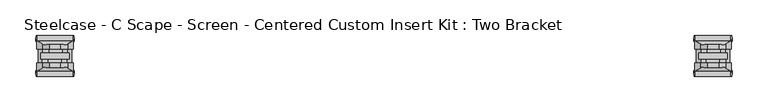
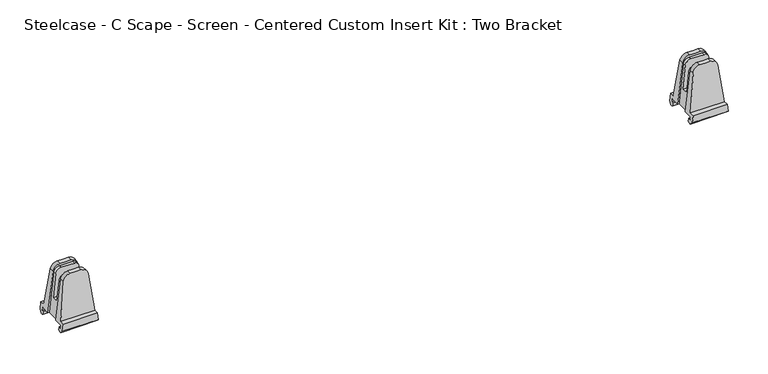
"""IFC4 building model written with IfcOpenShell, lengths in millimetres: furniture geometry, Steelcase - C Scape - Screen - Centered Custom Insert Kit : Two Bracket."""

from ifc_helpers import new_model, si_unit, frame, origin, place, context, project, spatial, circle_curve, ellipse_curve, source, transform, mapped, element, save
from ifc_brep_helpers import plane_surface, cylinder_surface, advanced_brep


def steelcase_c_scape_screen_centered_custom_insert_kit_two_16837869(model_context):
    return source(origin(), model_context, "Body", "AdvancedBrep", [
        advanced_brep(
        [(983.5509563, -3.1752569, 793.5976353), (991.1547419, -3.1752569, 793.5976353), (998.8009668, -3.1752569, 793.5976353), (998.8009668, 3.17474, 793.5976353), (991.1547419, 3.17474, 793.5976353), (983.5509563, 3.17474, 793.5976353), (973.2397645, -3.1752569, 784.4759275), (965.7961946, -3.1752569, 723.9), (967.8800991, -3.1752569, 723.9), (974.1386704, -3.1752569, 783.4463283), (982.1405253, -3.1752569, 790.6512308), (1001.7384021, -3.1752569, 790.6512308), (1008.0539246, -3.1752569, 784.9620449), (1014.4430489, -3.1752569, 723.9), (1016.5557285, -3.1752569, 723.9), (1009.1121585, -3.1752569, 784.4759275), (965.7961946, 10.1600734, 723.9), (1016.5557285, 10.1600734, 723.9), (1014.4430489, -22.2252569, 723.9), (1016.5557285, -22.2250614, 723.9), (1016.5557285, -35.5603917, 723.9), (965.7961946, -35.5603917, 723.9), (965.7961946, -22.2250614, 723.9), (967.8800991, -22.2250614, 723.9), (965.3275467, 10.1600734, 720.086134), (1017.0243764, 10.1600734, 720.086134), (965.3275467, 6.7312129, 720.086134), (1017.0243764, 6.7312129, 720.086134), (964.7969536, 6.7312129, 715.7681562), (1017.5549695, 6.7312129, 715.7681562), (964.5863055, 9.1438564, 714.375), (1017.7231783, 9.1438564, 714.375), (964.6257626, 11.8111354, 714.375), (1017.7231783, 11.8111354, 714.375), (965.0939371, 15.6202052, 718.1850145), (1017.2579859, 15.6202052, 718.1850145), (966.4422753, 15.6202052, 729.1578186), (1015.9096478, 15.6202052, 729.1578186), (966.4422753, 8.8135415, 729.1578186), (1015.9096478, 8.8135415, 729.1578186), (973.2397645, 3.9729344, 784.4759275), (1009.1121585, 3.9729344, 784.4759275), (966.4422753, -34.2138598, 729.1578186), (1015.9096478, -34.2138598, 729.1578186), (1009.1121585, -29.3732527, 784.4759275), (998.8009668, -28.5750583, 793.5976353), (991.1547419, -28.5750583, 793.5976353), (983.5509563, -28.5750583, 793.5976353), (973.2397645, -29.3732527, 784.4759275), (966.4422753, -41.0205235, 729.1578186), (1015.9096478, -41.0205235, 729.1578186), (965.0939371, -41.0205235, 718.1850145), (1017.2579859, -41.0205235, 718.1850145), (964.5863055, -37.2114537, 714.375), (1017.7231783, -37.2114537, 714.375), (964.6257626, -34.5441746, 714.375), (1017.7231783, -34.5441746, 714.375), (964.7969536, -32.1315312, 715.7681562), (1017.5549695, -32.1315312, 715.7681562), (965.3275467, -32.1315312, 720.086134), (1017.0243764, -32.1315312, 720.086134), (965.3275467, -35.5603917, 720.086134), (1017.0243764, -35.5603917, 720.086134), (983.5509563, -22.2250614, 793.5976353), (991.1547419, -22.2250614, 793.5976353), (998.8009668, -22.2250614, 793.5976353), (1009.1121585, -22.2250614, 784.4759275), (1008.5960885, -22.2250614, 779.780484), (1000.8144113, -22.2250614, 786.79042), (981.287828, -22.2250614, 786.79042), (973.7795976, -22.2250614, 780.0299789), (973.2397645, -22.2250614, 784.4759275), (981.287828, -17.4500569, 786.79042), (1000.8144113, -17.4500569, 786.79042), (1008.5960885, -17.4500569, 779.780484), (1011.8810426, -17.4500569, 748.3855694), (970.4536361, -17.4500569, 748.3855694), (973.7795976, -17.4500569, 780.0299789), (970.4536361, -7.9504569, 748.3855694), (974.1386704, -7.9504569, 783.4463283), (1008.0539246, -7.9504569, 784.9620449), (1011.8810426, -7.9504569, 748.3855694), (982.1405253, -7.9504569, 790.6512308), (1001.7384021, -7.9504569, 790.6512308)],
        [
            (0, 1),
            (1, 2),
            (2, 3),
            (3, 4),
            (4, 5),
            (5, 0),
            (0, 6, circle_curve(frame((983.5509563, -3.1752569, 783.2088883), z_axis=(0.0, -1.0, 0.0), x_axis=(-1.0, 0.0, 0.0)), 10.388747)),
            (6, 7),
            (7, 8),
            (8, 9),
            (9, 10, circle_curve(frame((982.1405253, -3.1752569, 782.6052995), z_axis=(0.0, 1.0, 0.0), x_axis=(1.0, 0.0, 0.0)), 8.0459313)),
            (10, 11),
            (11, 12, circle_curve(frame((1001.7384021, -3.1752569, 784.3012308), z_axis=(0.0, 1.0, 0.0), x_axis=(1.0, 0.0, 0.0)), 6.35)),
            (12, 13),
            (13, 14),
            (14, 15),
            (15, 2, circle_curve(frame((998.8009668, -3.1752569, 783.2088883), z_axis=(0.0, -1.0, 0.0), x_axis=(1.0, 0.0, 0.0)), 10.388747)),
            (16, 17),
            (17, 14),
            (13, 18),
            (18, 19),
            (19, 20),
            (20, 21),
            (21, 22),
            (22, 23),
            (23, 8),
            (7, 16),
            (16, 24),
            (24, 25),
            (25, 17),
            (24, 26),
            (26, 27),
            (27, 25),
            (26, 28),
            (28, 29),
            (29, 27),
            (30, 31),
            (31, 29),
            (28, 30),
            (30, 32),
            (32, 33),
            (33, 31),
            (32, 34),
            (34, 35),
            (35, 33),
            (34, 36),
            (36, 37),
            (37, 35),
            (36, 38),
            (38, 39),
            (39, 37),
            (38, 40),
            (40, 5, ellipse_curve(frame((983.5509563, 4.0838066, 783.2088883), z_axis=(0.0, 0.9961932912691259, 0.08717182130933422), x_axis=(0.0, 0.08717182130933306, -0.9961932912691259)), 10.428445, 10.388747)),
            (3, 41, ellipse_curve(frame((998.8009668, 4.0838066, 783.2088883), z_axis=(0.0, 0.9961932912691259, 0.08717182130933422), x_axis=(0.0, 0.08717182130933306, -0.9961932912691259)), 10.428445, 10.388747)),
            (41, 39),
            (42, 43),
            (43, 44),
            (44, 45, ellipse_curve(frame((998.8009668, -29.4841248, 783.2088883), z_axis=(0.0, -0.9961932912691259, 0.08717182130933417), x_axis=(0.0, 0.08717182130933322, 0.996193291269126)), 10.428445, 10.388747)),
            (45, 46),
            (46, 47),
            (47, 48, ellipse_curve(frame((983.5509563, -29.4841248, 783.2088883), z_axis=(0.0, -0.9961932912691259, 0.08717182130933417), x_axis=(0.0, 0.08717182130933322, 0.996193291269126)), 10.428445, 10.388747)),
            (48, 42),
            (42, 49),
            (49, 50),
            (50, 43),
            (49, 51),
            (51, 52),
            (52, 50),
            (53, 54),
            (54, 52),
            (51, 53),
            (53, 55),
            (55, 56),
            (56, 54),
            (55, 57),
            (57, 58),
            (58, 56),
            (57, 59),
            (59, 60),
            (60, 58),
            (59, 61),
            (61, 62),
            (62, 60),
            (61, 21),
            (20, 62),
            (63, 64),
            (64, 65),
            (65, 66, circle_curve(frame((998.8009668, -22.2250614, 783.2088883), z_axis=(0.0, 1.0, 0.0), x_axis=(1.0, 0.0, 0.0)), 10.388747)),
            (66, 19),
            (18, 67),
            (67, 68, circle_curve(frame((1000.8144113, -22.2250614, 778.9662613), z_axis=(0.0, -1.0, 0.0), x_axis=(1.0, 0.0, 0.0)), 7.8241587)),
            (68, 69),
            (69, 70, circle_curve(frame((981.287828, -22.2250614, 779.2408321), z_axis=(0.0, -1.0, 0.0), x_axis=(1.0, 0.0, 0.0)), 7.5495878)),
            (70, 23),
            (22, 71),
            (71, 63, circle_curve(frame((983.5509563, -22.2250614, 783.2088883), z_axis=(0.0, 1.0, 0.0), x_axis=(-1.0, 0.0, 0.0)), 10.388747)),
            (45, 65),
            (63, 47),
            (6, 40),
            (48, 71),
            (15, 41),
            (44, 66),
            (72, 73),
            (73, 74, circle_curve(frame((1000.8144113, -17.4500569, 778.9662613), z_axis=(0.0, 1.0, 0.0), x_axis=(1.0, 0.0, 0.0)), 7.8241587)),
            (74, 75),
            (75, 76),
            (76, 77),
            (77, 72, circle_curve(frame((981.287828, -17.4500569, 779.2408321), z_axis=(0.0, 1.0, 0.0), x_axis=(1.0, 0.0, 0.0)), 7.5495878)),
            (77, 70),
            (69, 72),
            (76, 78),
            (78, 79),
            (79, 9),
            (12, 80),
            (80, 81),
            (81, 75),
            (74, 67),
            (73, 68),
            (82, 79, circle_curve(frame((982.1405253, -7.9504569, 782.6052995), z_axis=(0.0, -1.0, 0.0), x_axis=(1.0, 0.0, 0.0)), 8.0459313)),
            (78, 81),
            (80, 83, circle_curve(frame((1001.7384021, -7.9504569, 784.3012308), z_axis=(0.0, -1.0, 0.0), x_axis=(1.0, 0.0, 0.0)), 6.35)),
            (83, 82),
            (82, 10),
            (11, 83),
        ],
        [
            plane_surface(frame((1017.7231783, 3.17474, 793.5976353), z_axis=(0.0, 0.0, 1.0), x_axis=(-1.0, 0.0, 0.0))),
            plane_surface(frame((1017.7231783, -3.1752569, 793.5976353), z_axis=(0.0, -1.0, 0.0), x_axis=(-1.0, 0.0, 0.0))),
            plane_surface(frame((1017.7231783, -3.1752569, 723.9), z_axis=(0.0, 0.0, -1.0), x_axis=(-1.0, 0.0, 0.0))),
            plane_surface(frame((1017.7231783, 10.1600734, 723.9), z_axis=(0.0, -1.0, 0.0), x_axis=(-1.0, 0.0, 0.0))),
            plane_surface(frame((1017.7231783, 10.1600734, 720.086134), z_axis=(0.0, 0.0, 1.0), x_axis=(-1.0, 0.0, 0.0))),
            plane_surface(frame((1017.7231783, 6.7312129, 720.086134), z_axis=(0.0, -1.0, 0.0), x_axis=(-1.0, 0.0, 0.0))),
            plane_surface(frame((1017.7231783, 6.7312129, 715.7681562), z_axis=(0.0, -0.5000581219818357, -0.8659918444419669), x_axis=(-1.0, 0.0, 0.0))),
            plane_surface(frame((1017.7231783, 9.1438564, 714.375), z_axis=(0.0, 0.0, -1.0), x_axis=(-1.0, 0.0, 0.0))),
            plane_surface(frame((1017.7231783, 11.8111354, 714.375), z_axis=(0.0, 0.7071944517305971, -0.7070190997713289), x_axis=(-1.0, 0.0, 0.0))),
            plane_surface(frame((1017.7231783, 15.6202052, 718.1850145), z_axis=(0.0, 1.0, 0.0), x_axis=(-1.0, 0.0, 0.0))),
            plane_surface(frame((1017.7231783, 15.6202052, 729.1578186), z_axis=(0.0, 0.0, 1.0), x_axis=(-1.0, 0.0, 0.0))),
            plane_surface(frame((1017.7231783, 8.8135415, 729.1578186), z_axis=(0.0, 0.9961932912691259, 0.08717182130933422), x_axis=(-1.0, 0.0, 0.0))),
            plane_surface(frame((1017.7231783, -28.5750583, 793.5976353), z_axis=(0.0, -0.9961932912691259, 0.08717182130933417), x_axis=(-1.0, 0.0, 0.0))),
            plane_surface(frame((1017.7231783, -34.2138598, 729.1578186), z_axis=(0.0, 0.0, 1.0), x_axis=(-1.0, 0.0, 0.0))),
            plane_surface(frame((1017.7231783, -41.0205235, 729.1578186), z_axis=(0.0, -1.0, 0.0), x_axis=(-1.0, 0.0, 0.0))),
            plane_surface(frame((1017.7231783, -41.0205235, 718.1850145), z_axis=(0.0, -0.7071944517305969, -0.707019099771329), x_axis=(-1.0, 0.0, 0.0))),
            plane_surface(frame((1017.7231783, -37.2114537, 714.375), z_axis=(0.0, 0.0, -1.0), x_axis=(-1.0, 0.0, 0.0))),
            plane_surface(frame((1017.7231783, -34.5441746, 714.375), z_axis=(0.0, 0.5000581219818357, -0.8659918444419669), x_axis=(-1.0, 0.0, 0.0))),
            plane_surface(frame((1017.7231783, -32.1315312, 715.7681562), z_axis=(0.0, 1.0, 0.0), x_axis=(-1.0, 0.0, 0.0))),
            plane_surface(frame((1017.7231783, -32.1315312, 720.086134), z_axis=(0.0, 0.0, 1.0), x_axis=(-1.0, 0.0, 0.0))),
            plane_surface(frame((1017.7231783, -35.5603917, 720.086134), z_axis=(0.0, 1.0, 0.0), x_axis=(-1.0, 0.0, 0.0))),
            plane_surface(frame((1017.7231783, -22.2250614, 723.9), z_axis=(0.0, 1.0, 0.0), x_axis=(-1.0, 0.0, 0.0))),
            plane_surface(frame((1017.7231783, -22.2250614, 793.5976353), z_axis=(0.0, 0.0, 1.0), x_axis=(-1.0, 0.0, 0.0))),
            plane_surface(frame((964.6257626, -43.2064559, 714.375), z_axis=(-0.9925346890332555, 0.0, 0.12196266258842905), x_axis=(0.0, 1.0, 0.0))),
            cylinder_surface(frame((983.5509563, 17.5208706, 783.2088883), z_axis=(0.0, 1.0, 0.0), x_axis=(-1.0, 0.0, 0.0)), 10.388747),
            cylinder_surface(frame((998.8009668, 17.5208706, 783.2088883), z_axis=(0.0, 1.0, 0.0), x_axis=(1.0, 0.0, 0.0)), 10.388747),
            plane_surface(frame((1009.1121585, -43.2064559, 784.4759275), z_axis=(0.9925346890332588, 0.0, 0.12196266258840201), x_axis=(0.0, 1.0, 0.0))),
            plane_surface(frame((988.8374158, -17.4500569, 779.2408321), z_axis=(0.0, 1.0, 0.0), x_axis=(0.0, 0.0, -1.0))),
            cylinder_surface(frame((981.287828, -17.4500569, 779.2408321), z_axis=(0.0, -1.0, 0.0), x_axis=(1.0, 0.0, 0.0)), 7.5495878),
            plane_surface(frame((973.7795976, -22.2252569, 780.0299789), z_axis=(-0.9945218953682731, 0.0, 0.10452846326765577), x_axis=(0.0, 1.0, 0.0))),
            plane_surface(frame((1014.4430489, -22.2252569, 723.9), z_axis=(0.9945704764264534, 0.0, 0.10406520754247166), x_axis=(0.0, 1.0, 0.0))),
            cylinder_surface(frame((1000.8144113, -17.4500569, 778.9662613), z_axis=(0.0, -1.0, 0.0), x_axis=(1.0, 0.0, 0.0)), 7.8241587),
            plane_surface(frame((1000.8144113, -22.2252569, 786.79042), z_axis=(0.0, 0.0, 1.0), x_axis=(0.0, 1.0, 0.0))),
            plane_surface(frame((990.1864566, -7.9504569, 782.6052995), z_axis=(0.0, -1.0, 0.0), x_axis=(0.0, 0.0, 1.0))),
            cylinder_surface(frame((982.1405253, -3.1752569, 782.6052995), z_axis=(0.0, -1.0, 0.0), x_axis=(1.0, 0.0, 0.0)), 8.0459313),
            cylinder_surface(frame((1001.7384021, -3.1752569, 784.3012308), z_axis=(0.0, -1.0, 0.0), x_axis=(1.0, 0.0, 0.0)), 6.35),
            plane_surface(frame((1001.7384021, -7.9504569, 790.6512308), z_axis=(0.0, 0.0, 1.0), x_axis=(0.0, 1.0, 0.0))),
            plane_surface(frame((1011.8810426, -17.4500569, 748.3855694), z_axis=(0.0, 0.0, 1.0), x_axis=(0.0, 1.0, 0.0))),
        ],
        [
            (0, [[1, 2, 3, 4, 5, 6]]),
            (1, [[-1, 7, 8, 9, 10, 11, 12, 13, 14, 15, 16, 17, -2]]),
            (2, [[18, 19, -15, 20, 21, 22, 23, 24, 25, 26, -9, 27]]),
            (3, [[-18, 28, 29, 30]]),
            (4, [[-29, 31, 32, 33]]),
            (5, [[-32, 34, 35, 36]]),
            (6, [[37, 38, -35, 39]]),
            (7, [[-37, 40, 41, 42]]),
            (8, [[-41, 43, 44, 45]]),
            (9, [[-44, 46, 47, 48]]),
            (10, [[-47, 49, 50, 51]]),
            (11, [[-50, 52, 53, -5, -4, 54, 55]]),
            (12, [[56, 57, 58, 59, 60, 61, 62]]),
            (13, [[-56, 63, 64, 65]]),
            (14, [[-64, 66, 67, 68]]),
            (15, [[69, 70, -67, 71]]),
            (16, [[-69, 72, 73, 74]]),
            (17, [[-73, 75, 76, 77]]),
            (18, [[-76, 78, 79, 80]]),
            (19, [[-79, 81, 82, 83]]),
            (20, [[-82, 84, -23, 85]]),
            (21, [[86, 87, 88, 89, -21, 90, 91, 92, 93, 94, -25, 95, 96]]),
            (22, [[-59, 97, -87, -86, 98, -60]]),
            (23, [[99, -52, -49, -46, -43, -40, -39, -34, -31, -28, -27, -8]]),
            (23, [[100, -95, -24, -84, -81, -78, -75, -72, -71, -66, -63, -62]]),
            (24, [[-99, -7, -6, -53]]),
            (24, [[-100, -61, -98, -96]]),
            (25, [[101, -54, -3, -17]]),
            (25, [[102, -88, -97, -58]]),
            (26, [[-101, -16, -19, -30, -33, -36, -38, -42, -45, -48, -51, -55]]),
            (26, [[-102, -57, -65, -68, -70, -74, -77, -80, -83, -85, -22, -89]]),
            (27, [[103, 104, 105, 106, 107, 108]]),
            (28, [[-108, 109, -93, 110]]),
            (29, [[-109, -107, 111, 112, 113, -10, -26, -94]]),
            (30, [[-20, -14, 114, 115, 116, -105, 117, -90]]),
            (31, [[-104, 118, -91, -117]]),
            (32, [[-103, -110, -92, -118]]),
            (33, [[119, -112, 120, -115, 121, 122]]),
            (34, [[-119, 123, -11, -113]]),
            (35, [[-121, -114, -13, 124]]),
            (36, [[-122, -124, -12, -123]]),
            (37, [[-111, -106, -116, -120]]),
        ],
    ),
        advanced_brep(
        [(67.0173627, -3.1752569, 793.5976353), (74.6211483, -3.1752569, 793.5976353), (82.2673732, -3.1752569, 793.5976353), (82.2673732, 3.17474, 793.5976353), (74.6211483, 3.17474, 793.5976353), (67.0173627, 3.17474, 793.5976353), (56.706171, -3.1752569, 784.4759275), (49.262601, -3.1752569, 723.9), (51.3465055, -3.1752569, 723.9), (57.6050768, -3.1752569, 783.4463283), (65.6069317, -3.1752569, 790.6512308), (85.2048085, -3.1752569, 790.6512308), (91.520331, -3.1752569, 784.9620449), (97.9094553, -3.1752569, 723.9), (100.0221349, -3.1752569, 723.9), (92.578565, -3.1752569, 784.4759275), (49.262601, 10.1600734, 723.9), (100.0221349, 10.1600734, 723.9), (97.9094553, -22.2252569, 723.9), (100.0221349, -22.2250614, 723.9), (100.0221349, -35.5603917, 723.9), (49.262601, -35.5603917, 723.9), (49.262601, -22.2250614, 723.9), (51.3465055, -22.2250614, 723.9), (48.7939531, 10.1600734, 720.086134), (100.4907828, 10.1600734, 720.086134), (48.7939531, 6.7312129, 720.086134), (100.4907828, 6.7312129, 720.086134), (48.26336, 6.7312129, 715.7681562), (101.0213759, 6.7312129, 715.7681562), (48.0527119, 9.1438564, 714.375), (101.1895848, 9.1438564, 714.375), (48.092169, 11.8111354, 714.375), (101.1895848, 11.8111354, 714.375), (48.5603436, 15.6202052, 718.1850145), (100.7243923, 15.6202052, 718.1850145), (49.9086817, 15.6202052, 729.1578186), (99.3760542, 15.6202052, 729.1578186), (49.9086817, 8.8135415, 729.1578186), (99.3760542, 8.8135415, 729.1578186), (56.706171, 3.9729344, 784.4759275), (92.578565, 3.9729344, 784.4759275), (49.9086817, -34.2138598, 729.1578186), (99.3760542, -34.2138598, 729.1578186), (92.578565, -29.3732527, 784.4759275), (82.2673732, -28.5750583, 793.5976353), (74.6211483, -28.5750583, 793.5976353), (67.0173627, -28.5750583, 793.5976353), (56.706171, -29.3732527, 784.4759275), (49.9086817, -41.0205235, 729.1578186), (99.3760542, -41.0205235, 729.1578186), (48.5603436, -41.0205235, 718.1850145), (100.7243923, -41.0205235, 718.1850145), (48.0527119, -37.2114537, 714.375), (101.1895848, -37.2114537, 714.375), (48.092169, -34.5441746, 714.375), (101.1895848, -34.5441746, 714.375), (48.26336, -32.1315312, 715.7681562), (101.0213759, -32.1315312, 715.7681562), (48.7939531, -32.1315312, 720.086134), (100.4907828, -32.1315312, 720.086134), (48.7939531, -35.5603917, 720.086134), (100.4907828, -35.5603917, 720.086134), (67.0173627, -22.2250614, 793.5976353), (74.6211483, -22.2250614, 793.5976353), (82.2673732, -22.2250614, 793.5976353), (92.578565, -22.2250614, 784.4759275), (92.0624949, -22.2250614, 779.780484), (84.2808177, -22.2250614, 786.79042), (64.7542344, -22.2250614, 786.79042), (57.246004, -22.2250614, 780.0299789), (56.706171, -22.2250614, 784.4759275), (64.7542344, -17.4500569, 786.79042), (84.2808177, -17.4500569, 786.79042), (92.0624949, -17.4500569, 779.780484), (95.347449, -17.4500569, 748.3855694), (53.9200426, -17.4500569, 748.3855694), (57.246004, -17.4500569, 780.0299789), (53.9200426, -7.9504569, 748.3855694), (57.6050768, -7.9504569, 783.4463283), (91.520331, -7.9504569, 784.9620449), (95.347449, -7.9504569, 748.3855694), (65.6069317, -7.9504569, 790.6512308), (85.2048085, -7.9504569, 790.6512308)],
        [
            (0, 1),
            (1, 2),
            (2, 3),
            (3, 4),
            (4, 5),
            (5, 0),
            (0, 6, circle_curve(frame((67.0173627, -3.1752569, 783.2088883), z_axis=(0.0, -1.0, 0.0), x_axis=(-1.0, 0.0, 0.0)), 10.388747)),
            (6, 7),
            (7, 8),
            (8, 9),
            (9, 10, circle_curve(frame((65.6069317, -3.1752569, 782.6052995), z_axis=(0.0, 1.0, 0.0), x_axis=(1.0, 0.0, 0.0)), 8.0459313)),
            (10, 11),
            (11, 12, circle_curve(frame((85.2048085, -3.1752569, 784.3012308), z_axis=(0.0, 1.0, 0.0), x_axis=(1.0, 0.0, 0.0)), 6.35)),
            (12, 13),
            (13, 14),
            (14, 15),
            (15, 2, circle_curve(frame((82.2673732, -3.1752569, 783.2088883), z_axis=(0.0, -1.0, 0.0), x_axis=(1.0, 0.0, 0.0)), 10.388747)),
            (16, 17),
            (17, 14),
            (13, 18),
            (18, 19),
            (19, 20),
            (20, 21),
            (21, 22),
            (22, 23),
            (23, 8),
            (7, 16),
            (16, 24),
            (24, 25),
            (25, 17),
            (24, 26),
            (26, 27),
            (27, 25),
            (26, 28),
            (28, 29),
            (29, 27),
            (30, 31),
            (31, 29),
            (28, 30),
            (30, 32),
            (32, 33),
            (33, 31),
            (32, 34),
            (34, 35),
            (35, 33),
            (34, 36),
            (36, 37),
            (37, 35),
            (36, 38),
            (38, 39),
            (39, 37),
            (38, 40),
            (40, 5, ellipse_curve(frame((67.0173627, 4.0838066, 783.2088883), z_axis=(0.0, 0.9961932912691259, 0.08717182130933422), x_axis=(0.0, 0.08717182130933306, -0.9961932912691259)), 10.428445, 10.388747)),
            (3, 41, ellipse_curve(frame((82.2673732, 4.0838066, 783.2088883), z_axis=(0.0, 0.9961932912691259, 0.08717182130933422), x_axis=(0.0, 0.08717182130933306, -0.9961932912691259)), 10.428445, 10.388747)),
            (41, 39),
            (42, 43),
            (43, 44),
            (44, 45, ellipse_curve(frame((82.2673732, -29.4841248, 783.2088883), z_axis=(0.0, -0.9961932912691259, 0.08717182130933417), x_axis=(0.0, 0.08717182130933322, 0.996193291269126)), 10.428445, 10.388747)),
            (45, 46),
            (46, 47),
            (47, 48, ellipse_curve(frame((67.0173627, -29.4841248, 783.2088883), z_axis=(0.0, -0.9961932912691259, 0.08717182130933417), x_axis=(0.0, 0.08717182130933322, 0.996193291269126)), 10.428445, 10.388747)),
            (48, 42),
            (42, 49),
            (49, 50),
            (50, 43),
            (49, 51),
            (51, 52),
            (52, 50),
            (53, 54),
            (54, 52),
            (51, 53),
            (53, 55),
            (55, 56),
            (56, 54),
            (55, 57),
            (57, 58),
            (58, 56),
            (57, 59),
            (59, 60),
            (60, 58),
            (59, 61),
            (61, 62),
            (62, 60),
            (61, 21),
            (20, 62),
            (63, 64),
            (64, 65),
            (65, 66, circle_curve(frame((82.2673732, -22.2250614, 783.2088883), z_axis=(0.0, 1.0, 0.0), x_axis=(1.0, 0.0, 0.0)), 10.388747)),
            (66, 19),
            (18, 67),
            (67, 68, circle_curve(frame((84.2808177, -22.2250614, 778.9662613), z_axis=(0.0, -1.0, 0.0), x_axis=(1.0, 0.0, 0.0)), 7.8241587)),
            (68, 69),
            (69, 70, circle_curve(frame((64.7542344, -22.2250614, 779.2408321), z_axis=(0.0, -1.0, 0.0), x_axis=(1.0, 0.0, 0.0)), 7.5495878)),
            (70, 23),
            (22, 71),
            (71, 63, circle_curve(frame((67.0173627, -22.2250614, 783.2088883), z_axis=(0.0, 1.0, 0.0), x_axis=(-1.0, 0.0, 0.0)), 10.388747)),
            (45, 65),
            (63, 47),
            (6, 40),
            (48, 71),
            (15, 41),
            (44, 66),
            (72, 73),
            (73, 74, circle_curve(frame((84.2808177, -17.4500569, 778.9662613), z_axis=(0.0, 1.0, 0.0), x_axis=(1.0, 0.0, 0.0)), 7.8241587)),
            (74, 75),
            (75, 76),
            (76, 77),
            (77, 72, circle_curve(frame((64.7542344, -17.4500569, 779.2408321), z_axis=(0.0, 1.0, 0.0), x_axis=(1.0, 0.0, 0.0)), 7.5495878)),
            (77, 70),
            (69, 72),
            (76, 78),
            (78, 79),
            (79, 9),
            (12, 80),
            (80, 81),
            (81, 75),
            (74, 67),
            (73, 68),
            (82, 79, circle_curve(frame((65.6069317, -7.9504569, 782.6052995), z_axis=(0.0, -1.0, 0.0), x_axis=(1.0, 0.0, 0.0)), 8.0459313)),
            (78, 81),
            (80, 83, circle_curve(frame((85.2048085, -7.9504569, 784.3012308), z_axis=(0.0, -1.0, 0.0), x_axis=(1.0, 0.0, 0.0)), 6.35)),
            (83, 82),
            (82, 10),
            (11, 83),
        ],
        [
            plane_surface(frame((101.1895848, 3.17474, 793.5976353), z_axis=(0.0, 0.0, 1.0), x_axis=(-1.0, 0.0, 0.0))),
            plane_surface(frame((101.1895848, -3.1752569, 793.5976353), z_axis=(0.0, -1.0, 0.0), x_axis=(-1.0, 0.0, 0.0))),
            plane_surface(frame((101.1895848, -3.1752569, 723.9), z_axis=(0.0, 0.0, -1.0), x_axis=(-1.0, 0.0, 0.0))),
            plane_surface(frame((101.1895848, 10.1600734, 723.9), z_axis=(0.0, -1.0, 0.0), x_axis=(-1.0, 0.0, 0.0))),
            plane_surface(frame((101.1895848, 10.1600734, 720.086134), z_axis=(0.0, 0.0, 1.0), x_axis=(-1.0, 0.0, 0.0))),
            plane_surface(frame((101.1895848, 6.7312129, 720.086134), z_axis=(0.0, -1.0, 0.0), x_axis=(-1.0, 0.0, 0.0))),
            plane_surface(frame((101.1895848, 6.7312129, 715.7681562), z_axis=(0.0, -0.5000581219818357, -0.8659918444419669), x_axis=(-1.0, 0.0, 0.0))),
            plane_surface(frame((101.1895848, 9.1438564, 714.375), z_axis=(0.0, 0.0, -1.0), x_axis=(-1.0, 0.0, 0.0))),
            plane_surface(frame((101.1895848, 11.8111354, 714.375), z_axis=(0.0, 0.7071944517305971, -0.7070190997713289), x_axis=(-1.0, 0.0, 0.0))),
            plane_surface(frame((101.1895848, 15.6202052, 718.1850145), z_axis=(0.0, 1.0, 0.0), x_axis=(-1.0, 0.0, 0.0))),
            plane_surface(frame((101.1895848, 15.6202052, 729.1578186), z_axis=(0.0, 0.0, 1.0), x_axis=(-1.0, 0.0, 0.0))),
            plane_surface(frame((101.1895848, 8.8135415, 729.1578186), z_axis=(0.0, 0.9961932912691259, 0.08717182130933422), x_axis=(-1.0, 0.0, 0.0))),
            plane_surface(frame((101.1895848, -28.5750583, 793.5976353), z_axis=(0.0, -0.9961932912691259, 0.08717182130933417), x_axis=(-1.0, 0.0, 0.0))),
            plane_surface(frame((101.1895848, -34.2138598, 729.1578186), z_axis=(0.0, 0.0, 1.0), x_axis=(-1.0, 0.0, 0.0))),
            plane_surface(frame((101.1895848, -41.0205235, 729.1578186), z_axis=(0.0, -1.0, 0.0), x_axis=(-1.0, 0.0, 0.0))),
            plane_surface(frame((101.1895848, -41.0205235, 718.1850145), z_axis=(0.0, -0.7071944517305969, -0.707019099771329), x_axis=(-1.0, 0.0, 0.0))),
            plane_surface(frame((101.1895848, -37.2114537, 714.375), z_axis=(0.0, 0.0, -1.0), x_axis=(-1.0, 0.0, 0.0))),
            plane_surface(frame((101.1895848, -34.5441746, 714.375), z_axis=(0.0, 0.5000581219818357, -0.8659918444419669), x_axis=(-1.0, 0.0, 0.0))),
            plane_surface(frame((101.1895848, -32.1315312, 715.7681562), z_axis=(0.0, 1.0, 0.0), x_axis=(-1.0, 0.0, 0.0))),
            plane_surface(frame((101.1895848, -32.1315312, 720.086134), z_axis=(0.0, 0.0, 1.0), x_axis=(-1.0, 0.0, 0.0))),
            plane_surface(frame((101.1895848, -35.5603917, 720.086134), z_axis=(0.0, 1.0, 0.0), x_axis=(-1.0, 0.0, 0.0))),
            plane_surface(frame((101.1895848, -22.2250614, 723.9), z_axis=(0.0, 1.0, 0.0), x_axis=(-1.0, 0.0, 0.0))),
            plane_surface(frame((101.1895848, -22.2250614, 793.5976353), z_axis=(0.0, 0.0, 1.0), x_axis=(-1.0, 0.0, 0.0))),
            plane_surface(frame((48.092169, -43.2064559, 714.375), z_axis=(-0.9925346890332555, 0.0, 0.12196266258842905), x_axis=(0.0, 1.0, 0.0))),
            cylinder_surface(frame((67.0173627, 17.5208706, 783.2088883), z_axis=(0.0, 1.0, 0.0), x_axis=(-1.0, 0.0, 0.0)), 10.388747),
            cylinder_surface(frame((82.2673732, 17.5208706, 783.2088883), z_axis=(0.0, 1.0, 0.0), x_axis=(1.0, 0.0, 0.0)), 10.388747),
            plane_surface(frame((92.578565, -43.2064559, 784.4759275), z_axis=(0.9925346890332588, 0.0, 0.12196266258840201), x_axis=(0.0, 1.0, 0.0))),
            plane_surface(frame((72.3038223, -17.4500569, 779.2408321), z_axis=(0.0, 1.0, 0.0), x_axis=(0.0, 0.0, -1.0))),
            cylinder_surface(frame((64.7542344, -17.4500569, 779.2408321), z_axis=(0.0, -1.0, 0.0), x_axis=(1.0, 0.0, 0.0)), 7.5495878),
            plane_surface(frame((57.246004, -22.2252569, 780.0299789), z_axis=(-0.9945218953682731, 0.0, 0.10452846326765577), x_axis=(0.0, 1.0, 0.0))),
            plane_surface(frame((97.9094553, -22.2252569, 723.9), z_axis=(0.9945704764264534, 0.0, 0.10406520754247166), x_axis=(0.0, 1.0, 0.0))),
            cylinder_surface(frame((84.2808177, -17.4500569, 778.9662613), z_axis=(0.0, -1.0, 0.0), x_axis=(1.0, 0.0, 0.0)), 7.8241587),
            plane_surface(frame((84.2808177, -22.2252569, 786.79042), z_axis=(0.0, 0.0, 1.0), x_axis=(0.0, 1.0, 0.0))),
            plane_surface(frame((73.652863, -7.9504569, 782.6052995), z_axis=(0.0, -1.0, 0.0), x_axis=(0.0, 0.0, 1.0))),
            cylinder_surface(frame((65.6069317, -3.1752569, 782.6052995), z_axis=(0.0, -1.0, 0.0), x_axis=(1.0, 0.0, 0.0)), 8.0459313),
            cylinder_surface(frame((85.2048085, -3.1752569, 784.3012308), z_axis=(0.0, -1.0, 0.0), x_axis=(1.0, 0.0, 0.0)), 6.35),
            plane_surface(frame((85.2048085, -7.9504569, 790.6512308), z_axis=(0.0, 0.0, 1.0), x_axis=(0.0, 1.0, 0.0))),
            plane_surface(frame((95.347449, -17.4500569, 748.3855694), z_axis=(0.0, 0.0, 1.0), x_axis=(0.0, 1.0, 0.0))),
        ],
        [
            (0, [[1, 2, 3, 4, 5, 6]]),
            (1, [[-1, 7, 8, 9, 10, 11, 12, 13, 14, 15, 16, 17, -2]]),
            (2, [[18, 19, -15, 20, 21, 22, 23, 24, 25, 26, -9, 27]]),
            (3, [[-18, 28, 29, 30]]),
            (4, [[-29, 31, 32, 33]]),
            (5, [[-32, 34, 35, 36]]),
            (6, [[37, 38, -35, 39]]),
            (7, [[-37, 40, 41, 42]]),
            (8, [[-41, 43, 44, 45]]),
            (9, [[-44, 46, 47, 48]]),
            (10, [[-47, 49, 50, 51]]),
            (11, [[-50, 52, 53, -5, -4, 54, 55]]),
            (12, [[56, 57, 58, 59, 60, 61, 62]]),
            (13, [[-56, 63, 64, 65]]),
            (14, [[-64, 66, 67, 68]]),
            (15, [[69, 70, -67, 71]]),
            (16, [[-69, 72, 73, 74]]),
            (17, [[-73, 75, 76, 77]]),
            (18, [[-76, 78, 79, 80]]),
            (19, [[-79, 81, 82, 83]]),
            (20, [[-82, 84, -23, 85]]),
            (21, [[86, 87, 88, 89, -21, 90, 91, 92, 93, 94, -25, 95, 96]]),
            (22, [[-59, 97, -87, -86, 98, -60]]),
            (23, [[99, -52, -49, -46, -43, -40, -39, -34, -31, -28, -27, -8]]),
            (23, [[100, -95, -24, -84, -81, -78, -75, -72, -71, -66, -63, -62]]),
            (24, [[-99, -7, -6, -53]]),
            (24, [[-100, -61, -98, -96]]),
            (25, [[101, -54, -3, -17]]),
            (25, [[102, -88, -97, -58]]),
            (26, [[-101, -16, -19, -30, -33, -36, -38, -42, -45, -48, -51, -55]]),
            (26, [[-102, -57, -65, -68, -70, -74, -77, -80, -83, -85, -22, -89]]),
            (27, [[103, 104, 105, 106, 107, 108]]),
            (28, [[-108, 109, -93, 110]]),
            (29, [[-109, -107, 111, 112, 113, -10, -26, -94]]),
            (30, [[-20, -14, 114, 115, 116, -105, 117, -90]]),
            (31, [[-104, 118, -91, -117]]),
            (32, [[-103, -110, -92, -118]]),
            (33, [[119, -112, 120, -115, 121, 122]]),
            (34, [[-119, 123, -11, -113]]),
            (35, [[-121, -114, -13, 124]]),
            (36, [[-122, -124, -12, -123]]),
            (37, [[-111, -106, -116, -120]]),
        ],
    ),
    ])


if __name__ == "__main__":
    model = new_model("IFC4")
    model_context = context("Model", 3, world=origin())
    ifc_project = project(units=[si_unit("LENGTHUNIT", "METRE", prefix="MILLI")], contexts=[model_context])
    site = spatial("IfcSite", under=ifc_project)
    building = spatial("IfcBuilding", under=site)
    placement = place(None, origin())
    steelcase_c_scape_screen_centered_custom_insert_kit_two_shape = steelcase_c_scape_screen_centered_custom_insert_kit_two_16837869(model_context)
    element("IfcFurniture", 1, ObjectType="Steelcase - C Scape - Screen - Centered Custom Insert Kit : Two Bracket", at=placement, inside=building, context=model_context, shape_type="MappedRepresentation", body=[
        mapped(steelcase_c_scape_screen_centered_custom_insert_kit_two_shape, transform((0.0, 0.0, 0.0), x_axis=(1.0, 0.0, 0.0), y_axis=(0.0, 1.0, 0.0), z_axis=(0.0, 0.0, 1.0))),
    ])
    save(model, "model.ifc")
